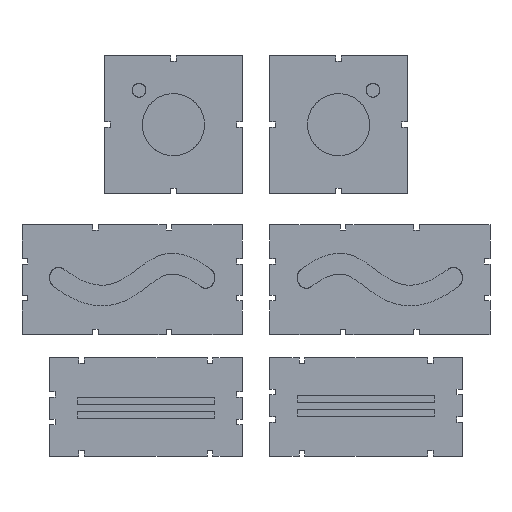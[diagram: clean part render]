
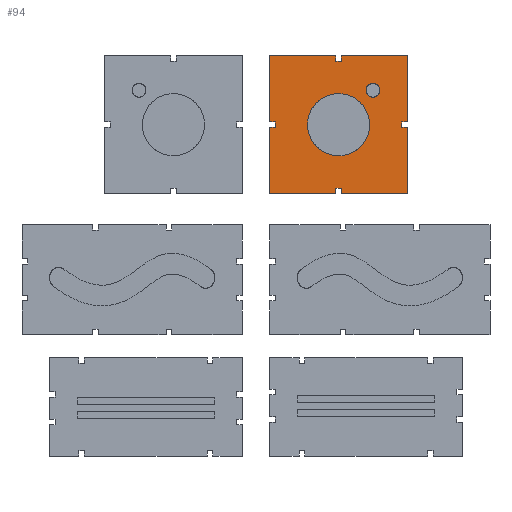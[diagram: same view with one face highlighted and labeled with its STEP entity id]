
A CAD part, top view. The second image highlights one B-rep face of the part: STEP entity #94.
In plain terms, the highlighted planar face has unit normal (0, 0, 1).
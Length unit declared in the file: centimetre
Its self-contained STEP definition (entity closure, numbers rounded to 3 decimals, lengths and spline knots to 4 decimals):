
#94=ADVANCED_FACE('',(#2724),#44188,.T.);
#2724=FACE_OUTER_BOUND('',#5354,.T.);
#5354=EDGE_LOOP('',(#8162,#8163,#8164,#8165,#8166,#8167,#8168,#8169,#8170,
#8171,#8172,#8173,#8174,#8175,#8176,#8177,#8178,#8179,#8180,#8181));
#8162=ORIENTED_EDGE('',*,*,#23570,.T.);
#8163=ORIENTED_EDGE('',*,*,#23571,.T.);
#8164=ORIENTED_EDGE('',*,*,#23572,.T.);
#8165=ORIENTED_EDGE('',*,*,#23573,.T.);
#8166=ORIENTED_EDGE('',*,*,#23574,.T.);
#8167=ORIENTED_EDGE('',*,*,#23575,.T.);
#8168=ORIENTED_EDGE('',*,*,#23576,.T.);
#8169=ORIENTED_EDGE('',*,*,#23577,.T.);
#8170=ORIENTED_EDGE('',*,*,#23578,.T.);
#8171=ORIENTED_EDGE('',*,*,#23579,.T.);
#8172=ORIENTED_EDGE('',*,*,#23580,.T.);
#8173=ORIENTED_EDGE('',*,*,#23581,.T.);
#8174=ORIENTED_EDGE('',*,*,#23582,.T.);
#8175=ORIENTED_EDGE('',*,*,#23583,.T.);
#8176=ORIENTED_EDGE('',*,*,#23584,.T.);
#8177=ORIENTED_EDGE('',*,*,#23585,.T.);
#8178=ORIENTED_EDGE('',*,*,#23586,.T.);
#8179=ORIENTED_EDGE('',*,*,#23587,.T.);
#8180=ORIENTED_EDGE('',*,*,#23588,.T.);
#8181=ORIENTED_EDGE('',*,*,#23589,.T.);
#23570=EDGE_CURVE('',#39050,#39051,#31328,.T.);
#23571=EDGE_CURVE('',#39051,#39052,#31329,.T.);
#23572=EDGE_CURVE('',#39052,#39053,#31330,.T.);
#23573=EDGE_CURVE('',#39053,#39054,#31331,.T.);
#23574=EDGE_CURVE('',#39054,#39055,#31332,.T.);
#23575=EDGE_CURVE('',#39055,#39056,#31333,.T.);
#23576=EDGE_CURVE('',#39056,#39057,#31334,.T.);
#23577=EDGE_CURVE('',#39057,#39058,#31335,.T.);
#23578=EDGE_CURVE('',#39058,#39059,#31336,.T.);
#23579=EDGE_CURVE('',#39059,#39060,#31337,.T.);
#23580=EDGE_CURVE('',#39060,#39061,#31338,.T.);
#23581=EDGE_CURVE('',#39061,#39062,#31339,.T.);
#23582=EDGE_CURVE('',#39062,#39063,#31340,.T.);
#23583=EDGE_CURVE('',#39063,#39064,#31341,.T.);
#23584=EDGE_CURVE('',#39064,#39065,#31342,.T.);
#23585=EDGE_CURVE('',#39065,#39066,#31343,.T.);
#23586=EDGE_CURVE('',#39066,#39067,#31344,.T.);
#23587=EDGE_CURVE('',#39067,#39068,#31345,.T.);
#23588=EDGE_CURVE('',#39068,#39069,#31346,.T.);
#23589=EDGE_CURVE('',#39069,#39050,#31347,.T.);
#31328=B_SPLINE_CURVE_WITH_KNOTS('',1,(#52522,#52523),.UNSPECIFIED.,.F.,
 .F.,(2,2),(0.,48.),.UNSPECIFIED.);
#31329=B_SPLINE_CURVE_WITH_KNOTS('',1,(#52524,#52525),.UNSPECIFIED.,.F.,
 .F.,(2,2),(0.,4.),.UNSPECIFIED.);
#31330=B_SPLINE_CURVE_WITH_KNOTS('',1,(#52526,#52527),.UNSPECIFIED.,.F.,
 .F.,(2,2),(0.,4.),.UNSPECIFIED.);
#31331=B_SPLINE_CURVE_WITH_KNOTS('',1,(#52528,#52529),.UNSPECIFIED.,.F.,
 .F.,(2,2),(0.,4.),.UNSPECIFIED.);
#31332=B_SPLINE_CURVE_WITH_KNOTS('',1,(#52530,#52531),.UNSPECIFIED.,.F.,
 .F.,(2,2),(0.,48.),.UNSPECIFIED.);
#31333=B_SPLINE_CURVE_WITH_KNOTS('',1,(#52532,#52533),.UNSPECIFIED.,.F.,
 .F.,(2,2),(0.,48.),.UNSPECIFIED.);
#31334=B_SPLINE_CURVE_WITH_KNOTS('',1,(#52534,#52535),.UNSPECIFIED.,.F.,
 .F.,(2,2),(0.,4.),.UNSPECIFIED.);
#31335=B_SPLINE_CURVE_WITH_KNOTS('',1,(#52536,#52537),.UNSPECIFIED.,.F.,
 .F.,(2,2),(0.,4.),.UNSPECIFIED.);
#31336=B_SPLINE_CURVE_WITH_KNOTS('',1,(#52538,#52539),.UNSPECIFIED.,.F.,
 .F.,(2,2),(0.,4.),.UNSPECIFIED.);
#31337=B_SPLINE_CURVE_WITH_KNOTS('',1,(#52540,#52541),.UNSPECIFIED.,.F.,
 .F.,(2,2),(0.,48.),.UNSPECIFIED.);
#31338=B_SPLINE_CURVE_WITH_KNOTS('',1,(#52542,#52543),.UNSPECIFIED.,.F.,
 .F.,(2,2),(0.,48.),.UNSPECIFIED.);
#31339=B_SPLINE_CURVE_WITH_KNOTS('',1,(#52544,#52545),.UNSPECIFIED.,.F.,
 .F.,(2,2),(0.,4.),.UNSPECIFIED.);
#31340=B_SPLINE_CURVE_WITH_KNOTS('',1,(#52546,#52547),.UNSPECIFIED.,.F.,
 .F.,(2,2),(0.,4.),.UNSPECIFIED.);
#31341=B_SPLINE_CURVE_WITH_KNOTS('',1,(#52548,#52549),.UNSPECIFIED.,.F.,
 .F.,(2,2),(0.,4.),.UNSPECIFIED.);
#31342=B_SPLINE_CURVE_WITH_KNOTS('',1,(#52550,#52551),.UNSPECIFIED.,.F.,
 .F.,(2,2),(0.,48.),.UNSPECIFIED.);
#31343=B_SPLINE_CURVE_WITH_KNOTS('',1,(#52552,#52553),.UNSPECIFIED.,.F.,
 .F.,(2,2),(0.,48.),.UNSPECIFIED.);
#31344=B_SPLINE_CURVE_WITH_KNOTS('',1,(#52554,#52555),.UNSPECIFIED.,.F.,
 .F.,(2,2),(0.,4.),.UNSPECIFIED.);
#31345=B_SPLINE_CURVE_WITH_KNOTS('',1,(#52556,#52557),.UNSPECIFIED.,.F.,
 .F.,(2,2),(0.,4.),.UNSPECIFIED.);
#31346=B_SPLINE_CURVE_WITH_KNOTS('',1,(#52558,#52559),.UNSPECIFIED.,.F.,
 .F.,(2,2),(0.,4.),.UNSPECIFIED.);
#31347=B_SPLINE_CURVE_WITH_KNOTS('',1,(#52560,#52561),.UNSPECIFIED.,.F.,
 .F.,(2,2),(0.,48.),.UNSPECIFIED.);
#39050=VERTEX_POINT('',#52482);
#39051=VERTEX_POINT('',#52483);
#39052=VERTEX_POINT('',#52484);
#39053=VERTEX_POINT('',#52485);
#39054=VERTEX_POINT('',#52486);
#39055=VERTEX_POINT('',#52487);
#39056=VERTEX_POINT('',#52488);
#39057=VERTEX_POINT('',#52489);
#39058=VERTEX_POINT('',#52490);
#39059=VERTEX_POINT('',#52491);
#39060=VERTEX_POINT('',#52492);
#39061=VERTEX_POINT('',#52493);
#39062=VERTEX_POINT('',#52494);
#39063=VERTEX_POINT('',#52495);
#39064=VERTEX_POINT('',#52496);
#39065=VERTEX_POINT('',#52497);
#39066=VERTEX_POINT('',#52498);
#39067=VERTEX_POINT('',#52499);
#39068=VERTEX_POINT('',#52500);
#39069=VERTEX_POINT('',#52501);
#44188=PLANE('',#46906);
#46906=AXIS2_PLACEMENT_3D('',#52460,#49539,$);
#49539=DIRECTION('',(0.,0.,1.));
#52460=CARTESIAN_POINT('',(-900.7873,303.,0.));
#52482=CARTESIAN_POINT('',(-899.7873,404.,0.));
#52483=CARTESIAN_POINT('',(-899.7873,356.,0.));
#52484=CARTESIAN_POINT('',(-895.7873,356.,0.));
#52485=CARTESIAN_POINT('',(-895.7873,352.,0.));
#52486=CARTESIAN_POINT('',(-899.7873,352.,0.));
#52487=CARTESIAN_POINT('',(-899.7873,304.,0.));
#52488=CARTESIAN_POINT('',(-851.7873,304.,0.));
#52489=CARTESIAN_POINT('',(-851.7873,308.,0.));
#52490=CARTESIAN_POINT('',(-847.7873,308.,0.));
#52491=CARTESIAN_POINT('',(-847.7873,304.,0.));
#52492=CARTESIAN_POINT('',(-799.7873,304.,0.));
#52493=CARTESIAN_POINT('',(-799.7873,352.,0.));
#52494=CARTESIAN_POINT('',(-803.7873,352.,0.));
#52495=CARTESIAN_POINT('',(-803.7873,356.,0.));
#52496=CARTESIAN_POINT('',(-799.7873,356.,0.));
#52497=CARTESIAN_POINT('',(-799.7873,404.,0.));
#52498=CARTESIAN_POINT('',(-847.7873,404.,0.));
#52499=CARTESIAN_POINT('',(-847.7873,400.,0.));
#52500=CARTESIAN_POINT('',(-851.7873,400.,0.));
#52501=CARTESIAN_POINT('',(-851.7873,404.,0.));
#52522=CARTESIAN_POINT('',(-899.7873,404.,0.));
#52523=CARTESIAN_POINT('',(-899.7873,356.,0.));
#52524=CARTESIAN_POINT('',(-899.7873,356.,0.));
#52525=CARTESIAN_POINT('',(-895.7873,356.,0.));
#52526=CARTESIAN_POINT('',(-895.7873,356.,0.));
#52527=CARTESIAN_POINT('',(-895.7873,352.,0.));
#52528=CARTESIAN_POINT('',(-895.7873,352.,0.));
#52529=CARTESIAN_POINT('',(-899.7873,352.,0.));
#52530=CARTESIAN_POINT('',(-899.7873,352.,0.));
#52531=CARTESIAN_POINT('',(-899.7873,304.,0.));
#52532=CARTESIAN_POINT('',(-899.7873,304.,0.));
#52533=CARTESIAN_POINT('',(-851.7873,304.,0.));
#52534=CARTESIAN_POINT('',(-851.7873,304.,0.));
#52535=CARTESIAN_POINT('',(-851.7873,308.,0.));
#52536=CARTESIAN_POINT('',(-851.7873,308.,0.));
#52537=CARTESIAN_POINT('',(-847.7873,308.,0.));
#52538=CARTESIAN_POINT('',(-847.7873,308.,0.));
#52539=CARTESIAN_POINT('',(-847.7873,304.,0.));
#52540=CARTESIAN_POINT('',(-847.7873,304.,0.));
#52541=CARTESIAN_POINT('',(-799.7873,304.,0.));
#52542=CARTESIAN_POINT('',(-799.7873,304.,0.));
#52543=CARTESIAN_POINT('',(-799.7873,352.,0.));
#52544=CARTESIAN_POINT('',(-799.7873,352.,0.));
#52545=CARTESIAN_POINT('',(-803.7873,352.,0.));
#52546=CARTESIAN_POINT('',(-803.7873,352.,0.));
#52547=CARTESIAN_POINT('',(-803.7873,356.,0.));
#52548=CARTESIAN_POINT('',(-803.7873,356.,0.));
#52549=CARTESIAN_POINT('',(-799.7873,356.,0.));
#52550=CARTESIAN_POINT('',(-799.7873,356.,0.));
#52551=CARTESIAN_POINT('',(-799.7873,404.,0.));
#52552=CARTESIAN_POINT('',(-799.7873,404.,0.));
#52553=CARTESIAN_POINT('',(-847.7873,404.,0.));
#52554=CARTESIAN_POINT('',(-847.7873,404.,0.));
#52555=CARTESIAN_POINT('',(-847.7873,400.,0.));
#52556=CARTESIAN_POINT('',(-847.7873,400.,0.));
#52557=CARTESIAN_POINT('',(-851.7873,400.,0.));
#52558=CARTESIAN_POINT('',(-851.7873,400.,0.));
#52559=CARTESIAN_POINT('',(-851.7873,404.,0.));
#52560=CARTESIAN_POINT('',(-851.7873,404.,0.));
#52561=CARTESIAN_POINT('',(-899.7873,404.,0.));
